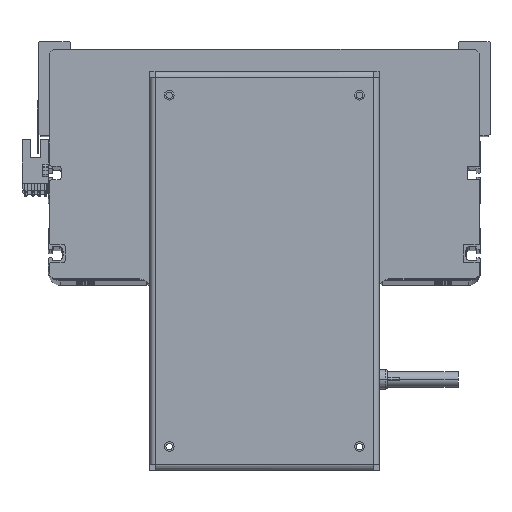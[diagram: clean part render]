
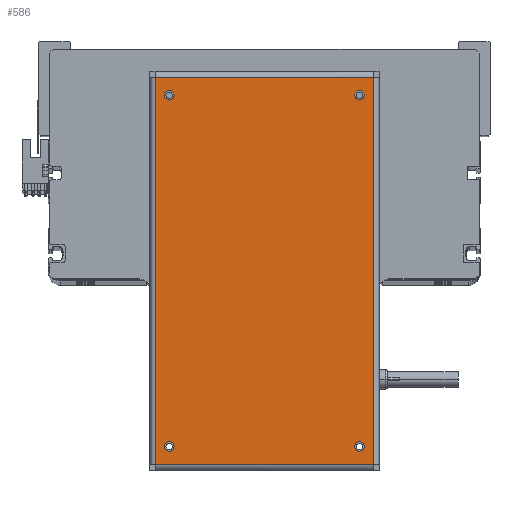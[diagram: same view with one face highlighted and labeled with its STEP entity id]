
A CAD part, top view. The second image highlights one B-rep face of the part: STEP entity #586.
In plain terms, the highlighted planar face has unit normal (0, 0, 1).
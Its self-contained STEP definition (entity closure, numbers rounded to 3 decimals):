
#586 = ADVANCED_FACE ( 'NONE', ( #35597, #40644, #21645, #13134, #22638 ), #11127, .F. ) ;
#719 = EDGE_LOOP ( 'NONE', ( #27934, #4388, #28964, #41351 ) ) ;
#1084 = CIRCLE ( 'NONE', #39075, 2.5 ) ;
#2052 = VERTEX_POINT ( 'NONE', #37496 ) ;
#2209 = ORIENTED_EDGE ( 'NONE', *, *, #2459, .F. ) ;
#2452 = DIRECTION ( 'NONE',  ( 1., 0., 0. ) ) ;
#2459 = EDGE_CURVE ( 'NONE', #15673, #40582, #15162, .T. ) ;
#2769 = DIRECTION ( 'NONE',  ( 0., 0., 1. ) ) ;
#2986 = CARTESIAN_POINT ( 'NONE',  ( 92.05, 48.5, 0. ) ) ;
#3025 = CIRCLE ( 'NONE', #20778, 2.5 ) ;
#3442 = CARTESIAN_POINT ( 'NONE',  ( 98.65, -55.6, 0. ) ) ;
#3830 = CIRCLE ( 'NONE', #19546, 2.5 ) ;
#4114 = CARTESIAN_POINT ( 'NONE',  ( 89.55, -48.5, 0. ) ) ;
#4388 = ORIENTED_EDGE ( 'NONE', *, *, #6748, .T. ) ;
#5161 = AXIS2_PLACEMENT_3D ( 'NONE', #5234, #40593, #2452 ) ;
#5234 = CARTESIAN_POINT ( 'NONE',  ( -89.55, -48.5, 0. ) ) ;
#5322 = EDGE_LOOP ( 'NONE', ( #31798, #14075 ) ) ;
#5440 = CARTESIAN_POINT ( 'NONE',  ( -89.55, -48.5, 0. ) ) ;
#5923 = LINE ( 'NONE', #38566, #18418 ) ;
#6423 = EDGE_CURVE ( 'NONE', #31359, #32924, #5923, .T. ) ;
#6736 = ORIENTED_EDGE ( 'NONE', *, *, #13442, .F. ) ;
#6748 = EDGE_CURVE ( 'NONE', #2052, #30248, #34827, .T. ) ;
#6796 = VERTEX_POINT ( 'NONE', #9119 ) ;
#7187 = EDGE_CURVE ( 'NONE', #32924, #2052, #35327, .T. ) ;
#7287 = AXIS2_PLACEMENT_3D ( 'NONE', #36575, #20809, #10995 ) ;
#7327 = ORIENTED_EDGE ( 'NONE', *, *, #31692, .F. ) ;
#9119 = CARTESIAN_POINT ( 'NONE',  ( -92.05, 48.5, 0. ) ) ;
#9728 = EDGE_CURVE ( 'NONE', #30248, #31359, #28074, .T. ) ;
#10548 = CARTESIAN_POINT ( 'NONE',  ( 87.05, 48.5, 0. ) ) ;
#10675 = CARTESIAN_POINT ( 'NONE',  ( -89.55, 48.5, 0. ) ) ;
#10811 = ORIENTED_EDGE ( 'NONE', *, *, #20730, .F. ) ;
#10995 = DIRECTION ( 'NONE',  ( -1., 0., 0. ) ) ;
#11127 = PLANE ( 'NONE',  #7287 ) ;
#11977 = CARTESIAN_POINT ( 'NONE',  ( 98.65, 55.6, 0. ) ) ;
#13088 = CIRCLE ( 'NONE', #39841, 2.5 ) ;
#13134 = FACE_BOUND ( 'NONE', #5322, .T. ) ;
#13414 = DIRECTION ( 'NONE',  ( 0., 0., 1. ) ) ;
#13442 = EDGE_CURVE ( 'NONE', #6796, #30587, #3830, .T. ) ;
#13453 = DIRECTION ( 'NONE',  ( 1., 0., 0. ) ) ;
#13588 = CARTESIAN_POINT ( 'NONE',  ( 89.55, 48.5, 0. ) ) ;
#13627 = VERTEX_POINT ( 'NONE', #16427 ) ;
#14075 = ORIENTED_EDGE ( 'NONE', *, *, #18982, .F. ) ;
#15162 = CIRCLE ( 'NONE', #19140, 2.5 ) ;
#15673 = VERTEX_POINT ( 'NONE', #33989 ) ;
#16368 = CIRCLE ( 'NONE', #5161, 2.5 ) ;
#16385 = VECTOR ( 'NONE', #24075, 1000. ) ;
#16427 = CARTESIAN_POINT ( 'NONE',  ( 87.05, -48.5, 0. ) ) ;
#16488 = DIRECTION ( 'NONE',  ( -1., 0., 0. ) ) ;
#16618 = ORIENTED_EDGE ( 'NONE', *, *, #40667, .F. ) ;
#16901 = CIRCLE ( 'NONE', #28827, 2.5 ) ;
#17133 = CARTESIAN_POINT ( 'NONE',  ( -87.05, -48.5, 0. ) ) ;
#17732 = CIRCLE ( 'NONE', #40603, 2.5 ) ;
#18418 = VECTOR ( 'NONE', #16488, 1000. ) ;
#18954 = EDGE_LOOP ( 'NONE', ( #16618, #6736 ) ) ;
#18982 = EDGE_CURVE ( 'NONE', #30882, #25107, #3025, .T. ) ;
#19086 = CARTESIAN_POINT ( 'NONE',  ( 89.55, -48.5, 0. ) ) ;
#19140 = AXIS2_PLACEMENT_3D ( 'NONE', #5440, #30591, #21116 ) ;
#19450 = CARTESIAN_POINT ( 'NONE',  ( 89.55, 48.5, 0. ) ) ;
#19546 = AXIS2_PLACEMENT_3D ( 'NONE', #21910, #2769, #22042 ) ;
#20175 = DIRECTION ( 'NONE',  ( 1., 0., 0. ) ) ;
#20344 = DIRECTION ( 'NONE',  ( 1., 0., 0. ) ) ;
#20730 = EDGE_CURVE ( 'NONE', #32942, #13627, #16901, .T. ) ;
#20778 = AXIS2_PLACEMENT_3D ( 'NONE', #13588, #35952, #13453 ) ;
#20809 = DIRECTION ( 'NONE',  ( 0., 0., -1. ) ) ;
#21116 = DIRECTION ( 'NONE',  ( 1., 0., 0. ) ) ;
#21645 = FACE_BOUND ( 'NONE', #34143, .T. ) ;
#21910 = CARTESIAN_POINT ( 'NONE',  ( -89.55, 48.5, 0. ) ) ;
#22042 = DIRECTION ( 'NONE',  ( 1., 0., 0. ) ) ;
#22638 = FACE_OUTER_BOUND ( 'NONE', #719, .T. ) ;
#23924 = DIRECTION ( 'NONE',  ( 0., -1., 0. ) ) ;
#24075 = DIRECTION ( 'NONE',  ( 1., 0., 0. ) ) ;
#25107 = VERTEX_POINT ( 'NONE', #2986 ) ;
#25429 = CARTESIAN_POINT ( 'NONE',  ( 98.65, -55.6, 0. ) ) ;
#25777 = DIRECTION ( 'NONE',  ( 0., 1., 0. ) ) ;
#27934 = ORIENTED_EDGE ( 'NONE', *, *, #7187, .T. ) ;
#28074 = LINE ( 'NONE', #3442, #38596 ) ;
#28296 = DIRECTION ( 'NONE',  ( 1., 0., 0. ) ) ;
#28827 = AXIS2_PLACEMENT_3D ( 'NONE', #19086, #41448, #28296 ) ;
#28964 = ORIENTED_EDGE ( 'NONE', *, *, #9728, .T. ) ;
#29471 = EDGE_CURVE ( 'NONE', #25107, #30882, #1084, .T. ) ;
#30248 = VERTEX_POINT ( 'NONE', #25429 ) ;
#30587 = VERTEX_POINT ( 'NONE', #34173 ) ;
#30591 = DIRECTION ( 'NONE',  ( 0., 0., 1. ) ) ;
#30882 = VERTEX_POINT ( 'NONE', #10548 ) ;
#31359 = VERTEX_POINT ( 'NONE', #11977 ) ;
#31692 = EDGE_CURVE ( 'NONE', #40582, #15673, #16368, .T. ) ;
#31798 = ORIENTED_EDGE ( 'NONE', *, *, #29471, .F. ) ;
#32924 = VERTEX_POINT ( 'NONE', #41208 ) ;
#32942 = VERTEX_POINT ( 'NONE', #38124 ) ;
#33989 = CARTESIAN_POINT ( 'NONE',  ( -92.05, -48.5, 0. ) ) ;
#34113 = CARTESIAN_POINT ( 'NONE',  ( -98.75, -55.6, 0. ) ) ;
#34143 = EDGE_LOOP ( 'NONE', ( #10811, #36745 ) ) ;
#34173 = CARTESIAN_POINT ( 'NONE',  ( -87.05, 48.5, 0. ) ) ;
#34309 = VECTOR ( 'NONE', #23924, 1000. ) ;
#34827 = LINE ( 'NONE', #34113, #16385 ) ;
#35327 = LINE ( 'NONE', #39357, #34309 ) ;
#35597 = FACE_BOUND ( 'NONE', #39127, .T. ) ;
#35754 = DIRECTION ( 'NONE',  ( 1., 0., 0. ) ) ;
#35952 = DIRECTION ( 'NONE',  ( 0., 0., 1. ) ) ;
#36068 = EDGE_CURVE ( 'NONE', #13627, #32942, #13088, .T. ) ;
#36575 = CARTESIAN_POINT ( 'NONE',  ( 98.75, 58.5, 0. ) ) ;
#36745 = ORIENTED_EDGE ( 'NONE', *, *, #36068, .F. ) ;
#37496 = CARTESIAN_POINT ( 'NONE',  ( -98.65, -55.6, 0. ) ) ;
#38124 = CARTESIAN_POINT ( 'NONE',  ( 92.05, -48.5, 0. ) ) ;
#38566 = CARTESIAN_POINT ( 'NONE',  ( 98.75, 55.6, 0. ) ) ;
#38596 = VECTOR ( 'NONE', #25777, 1000. ) ;
#38923 = DIRECTION ( 'NONE',  ( 0., 0., 1. ) ) ;
#39075 = AXIS2_PLACEMENT_3D ( 'NONE', #19450, #13414, #35754 ) ;
#39127 = EDGE_LOOP ( 'NONE', ( #7327, #2209 ) ) ;
#39357 = CARTESIAN_POINT ( 'NONE',  ( -98.65, 55.6, 0. ) ) ;
#39503 = DIRECTION ( 'NONE',  ( 0., 0., 1. ) ) ;
#39841 = AXIS2_PLACEMENT_3D ( 'NONE', #4114, #38923, #20175 ) ;
#40582 = VERTEX_POINT ( 'NONE', #17133 ) ;
#40593 = DIRECTION ( 'NONE',  ( 0., 0., 1. ) ) ;
#40603 = AXIS2_PLACEMENT_3D ( 'NONE', #10675, #39503, #20344 ) ;
#40644 = FACE_BOUND ( 'NONE', #18954, .T. ) ;
#40667 = EDGE_CURVE ( 'NONE', #30587, #6796, #17732, .T. ) ;
#41208 = CARTESIAN_POINT ( 'NONE',  ( -98.65, 55.6, 0. ) ) ;
#41351 = ORIENTED_EDGE ( 'NONE', *, *, #6423, .T. ) ;
#41448 = DIRECTION ( 'NONE',  ( 0., 0., 1. ) ) ;
